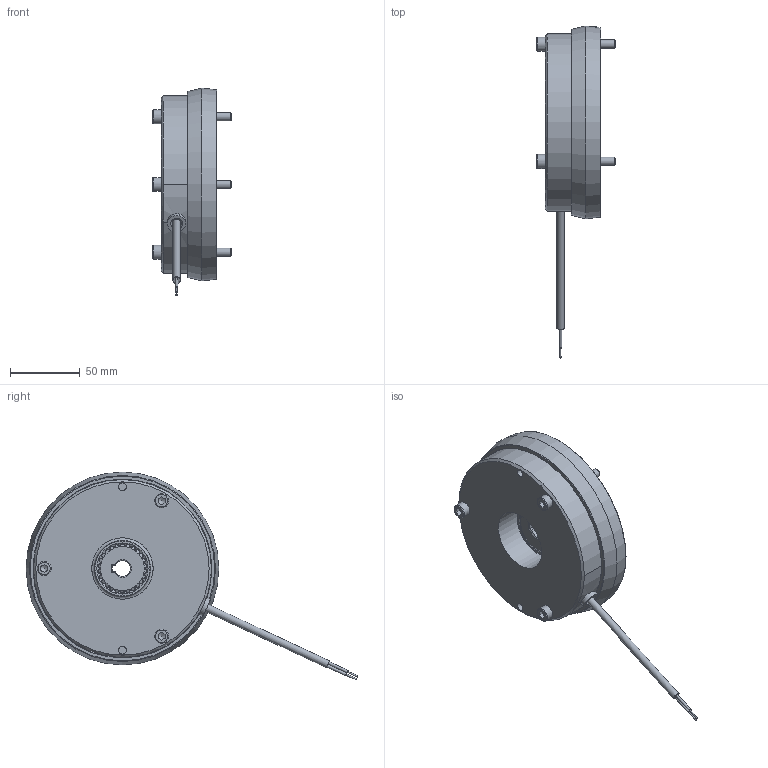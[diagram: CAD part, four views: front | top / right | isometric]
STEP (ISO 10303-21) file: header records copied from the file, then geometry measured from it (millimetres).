
FILE_DESCRIPTION(/* description */ (''),/* implementation_level */ '2;1');
FILE_NAME(/* name */ 'C:\SapWorkDir\Inventor\IP1\ConvertTempPath\5029485_IPT_000.ipt.stp',/* time_stamp */ '2021-04-21T07:55:19+02:00',/* author */ ('WOELK'),/* organization */ (''),/* preprocessor_version */ 'ST-DEVELOPER v17',/* originating_system */ 'Autodesk Inventor 2018',/* authorisation */ '');
FILE_SCHEMA (('AUTOMOTIVE_DESIGN { 1 0 10303 214 3 1 1 }'));
Products named in the file (1): 5029485
Bounding box: 56 x 237.37 x 148.61 mm (x, y, z)
Volume: 425457 mm3; surface area: 127526.8 mm2
Topology: 2 solids, 2 shells, 1923 faces, 5800 edges, 3746 vertices
Faces by surface type: cylinder 829, plane 401, bspline 344, torus 252, cone 97
Full cylindrical faces by diameter (mm): 1 x2, 1.85 x2, 5 x1, 5.3 x1, 5.5 x3, 6 x3, 6.15 x3, 6.4 x3, 6.6 x7, 8.917 x3, 10 x6, 10.4 x3, 12 x3, 13.2 x1, 38.3 x1, 44 x2, 52 x1, 65.7 x2, 66.1 x2, 95 x1, 127 x1
Entity records: 81120 total; most frequent: CARTESIAN_POINT 28949, ORIENTED_EDGE 11592, DIRECTION 9709, EDGE_CURVE 5796, AXIS2_PLACEMENT_3D 3946, VERTEX_POINT 3746, CIRCLE 2366, EDGE_LOOP 2002
